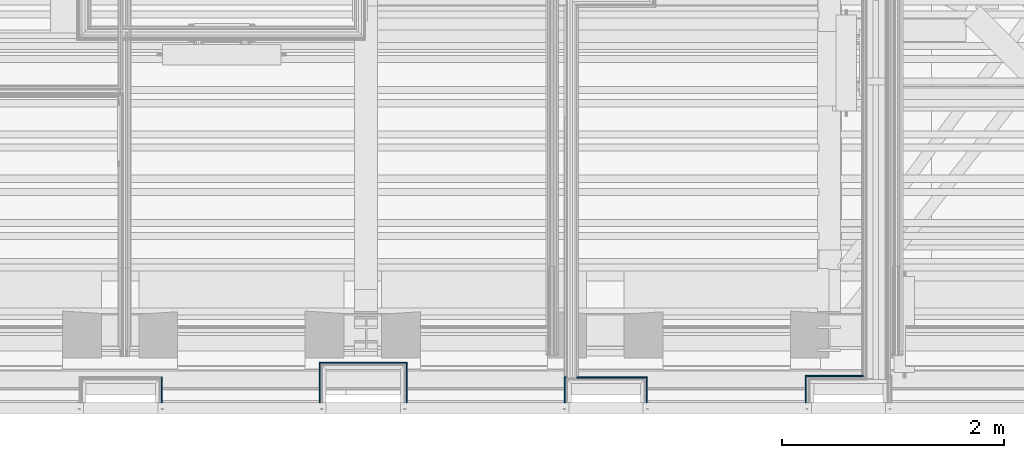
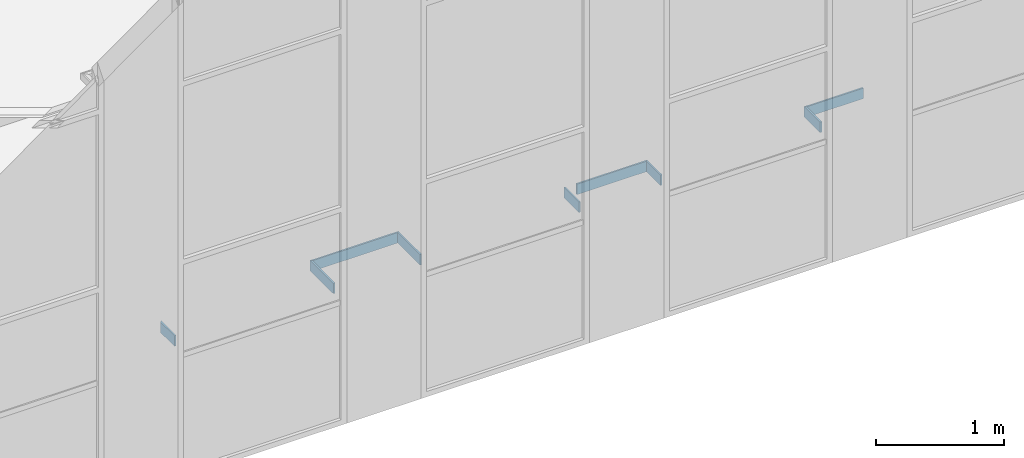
# One storey, part 75 of 183: 9 building element parts, 9 elements without a shape of their own.
"""IFC2X3 building model written with IfcOpenShell, lengths in metres."""

from ifc_helpers import new_model, entity, si_unit, converted_unit, derived_unit, money_unit, direction, frame, frame_2d, origin_with_axes, place, context, subcontext, project, spatial, polyline, rectangle, outline, extrude, material, type_object, element, aggregate, save


model = new_model("IFC2X3")

# Units and contexts
model_context = context("Model", 3, precision=1e-05, world=origin_with_axes(), true_north=direction((0.0, 1.0)))
body_context = subcontext(model_context, "Body", "Model", "MODEL_VIEW", scale=1.0)
ifc_project = project(units=[si_unit("LENGTHUNIT", "METRE"), si_unit("AREAUNIT", "SQUARE_METRE"), si_unit("VOLUMEUNIT", "CUBIC_METRE"), si_unit("ABSORBEDDOSEUNIT", "GRAY"), si_unit("AMOUNTOFSUBSTANCEUNIT", "MOLE"), si_unit("DOSEEQUIVALENTUNIT", "SIEVERT"), si_unit("ELECTRICCAPACITANCEUNIT", "FARAD"), si_unit("ELECTRICCHARGEUNIT", "COULOMB"), si_unit("ELECTRICCONDUCTANCEUNIT", "SIEMENS"), si_unit("ELECTRICCURRENTUNIT", "AMPERE"), si_unit("ELECTRICRESISTANCEUNIT", "OHM"), si_unit("ELECTRICVOLTAGEUNIT", "VOLT"), si_unit("ENERGYUNIT", "JOULE"), si_unit("FORCEUNIT", "NEWTON"), si_unit("FREQUENCYUNIT", "HERTZ"), si_unit("ILLUMINANCEUNIT", "LUX"), si_unit("INDUCTANCEUNIT", "HENRY"), si_unit("LUMINOUSFLUXUNIT", "LUMEN"), si_unit("LUMINOUSINTENSITYUNIT", "CANDELA"), si_unit("MAGNETICFLUXDENSITYUNIT", "TESLA"), si_unit("MAGNETICFLUXUNIT", "WEBER"), si_unit("MASSUNIT", "GRAM"), converted_unit("PLANEANGLEUNIT", "degree", entity("IfcReal", 0.0174532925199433), si_unit("PLANEANGLEUNIT", "RADIAN"), dimensions=[0, 0, 0, 0, 0, 0, 0]), si_unit("POWERUNIT", "WATT"), si_unit("PRESSUREUNIT", "PASCAL"), si_unit("RADIOACTIVITYUNIT", "BECQUEREL"), si_unit("SOLIDANGLEUNIT", "STERADIAN"), si_unit("THERMODYNAMICTEMPERATUREUNIT", "KELVIN"), si_unit("TIMEUNIT", "SECOND"), derived_unit("ACCELERATIONUNIT", [(si_unit("LENGTHUNIT", "METRE"), 1), (si_unit("TIMEUNIT", "SECOND"), -2)]), derived_unit("ANGULARVELOCITYUNIT", [(converted_unit("PLANEANGLEUNIT", "degree", entity("IfcReal", 0.0174532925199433), si_unit("PLANEANGLEUNIT", "RADIAN"), dimensions=[0, 0, 0, 0, 0, 0, 0]), 1), (si_unit("TIMEUNIT", "SECOND"), -1)]), derived_unit("CURVATUREUNIT", [(converted_unit("PLANEANGLEUNIT", "degree", entity("IfcReal", 0.0174532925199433), si_unit("PLANEANGLEUNIT", "RADIAN"), dimensions=[0, 0, 0, 0, 0, 0, 0]), 1), (si_unit("LENGTHUNIT", "METRE"), -1)]), derived_unit("DYNAMICVISCOSITYUNIT", [(si_unit("PRESSUREUNIT", "PASCAL"), 1), (si_unit("TIMEUNIT", "SECOND"), 1)]), derived_unit("HEATFLUXDENSITYUNIT", [(si_unit("POWERUNIT", "WATT"), 1), (si_unit("LENGTHUNIT", "METRE"), -2)]), derived_unit("HEATINGVALUEUNIT", [(si_unit("ENERGYUNIT", "JOULE"), 1), (si_unit("MASSUNIT", "GRAM"), -1)]), derived_unit("INTEGERCOUNTRATEUNIT", [(si_unit("TIMEUNIT", "SECOND"), -1)]), derived_unit("IONCONCENTRATIONUNIT", [(si_unit("MASSUNIT", "GRAM"), 1), (si_unit("VOLUMEUNIT", "CUBIC_METRE"), -1)]), derived_unit("ISOTHERMALMOISTURECAPACITYUNIT", [(si_unit("VOLUMEUNIT", "CUBIC_METRE"), 1), (si_unit("MASSUNIT", "GRAM"), -1)]), derived_unit("KINEMATICVISCOSITYUNIT", [(si_unit("AREAUNIT", "SQUARE_METRE"), 1), (si_unit("TIMEUNIT", "SECOND"), -1)]), derived_unit("LINEARFORCEUNIT", [(si_unit("FORCEUNIT", "NEWTON"), 1), (si_unit("LENGTHUNIT", "METRE"), -1)]), derived_unit("LINEARMOMENTUNIT", [(si_unit("FORCEUNIT", "NEWTON"), 1), (si_unit("LENGTHUNIT", "METRE"), -1)]), derived_unit("LINEARSTIFFNESSUNIT", [(si_unit("FORCEUNIT", "NEWTON"), 1), (si_unit("LENGTHUNIT", "METRE"), -1)]), derived_unit("LINEARVELOCITYUNIT", [(si_unit("LENGTHUNIT", "METRE"), 1), (si_unit("TIMEUNIT", "SECOND"), -1)]), derived_unit("LUMINOUSINTENSITYDISTRIBUTIONUNIT", [(si_unit("LUMINOUSINTENSITYUNIT", "CANDELA"), 1), (si_unit("LUMINOUSFLUXUNIT", "LUMEN"), -1)]), derived_unit("MASSDENSITYUNIT", [(si_unit("MASSUNIT", "GRAM"), 1), (si_unit("VOLUMEUNIT", "CUBIC_METRE"), -1)]), derived_unit("MASSFLOWRATEUNIT", [(si_unit("MASSUNIT", "GRAM"), 1), (si_unit("TIMEUNIT", "SECOND"), -1)]), derived_unit("MASSPERLENGTHUNIT", [(si_unit("MASSUNIT", "GRAM"), 1), (si_unit("LENGTHUNIT", "METRE"), -1)]), derived_unit("MODULUSOFELASTICITYUNIT", [(si_unit("FORCEUNIT", "NEWTON"), 1), (si_unit("AREAUNIT", "SQUARE_METRE"), -1)]), derived_unit("MODULUSOFLINEARSUBGRADEREACTIONUNIT", [(si_unit("FORCEUNIT", "NEWTON"), 1), (si_unit("LENGTHUNIT", "METRE"), -2)]), derived_unit("MODULUSOFROTATIONALSUBGRADEREACTIONUNIT", [(si_unit("FORCEUNIT", "NEWTON"), 1), (si_unit("LENGTHUNIT", "METRE"), 1)]), derived_unit("MODULUSOFSUBGRADEREACTIONUNIT", [(si_unit("FORCEUNIT", "NEWTON"), 1), (si_unit("VOLUMEUNIT", "CUBIC_METRE"), -1)]), derived_unit("MOISTUREDIFFUSIVITYUNIT", [(si_unit("VOLUMEUNIT", "CUBIC_METRE"), 1), (si_unit("TIMEUNIT", "SECOND"), -1)]), derived_unit("MOLECULARWEIGHTUNIT", [(si_unit("MASSUNIT", "GRAM"), 1), (si_unit("AMOUNTOFSUBSTANCEUNIT", "MOLE"), -1)]), derived_unit("PLANARFORCEUNIT", [(si_unit("FORCEUNIT", "NEWTON"), 1), (si_unit("LENGTHUNIT", "METRE"), -2)]), derived_unit("ROTATIONALFREQUENCYUNIT", [(si_unit("TIMEUNIT", "SECOND"), -1)]), derived_unit("ROTATIONALMASSUNIT", [(si_unit("MASSUNIT", "GRAM"), 1), (si_unit("LENGTHUNIT", "METRE"), 2)]), derived_unit("ROTATIONALSTIFFNESSUNIT", [(si_unit("FORCEUNIT", "NEWTON"), 1), (si_unit("LENGTHUNIT", "METRE"), 1), (converted_unit("PLANEANGLEUNIT", "degree", entity("IfcReal", 0.0174532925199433), si_unit("PLANEANGLEUNIT", "RADIAN"), dimensions=[0, 0, 0, 0, 0, 0, 0]), -1)]), derived_unit("SECTIONAREAINTEGRALUNIT", [(si_unit("LENGTHUNIT", "METRE"), 5)]), derived_unit("SECTIONMODULUSUNIT", [(si_unit("LENGTHUNIT", "METRE"), 3)]), derived_unit("SHEARMODULUSUNIT", [(si_unit("FORCEUNIT", "NEWTON"), 1), (si_unit("AREAUNIT", "SQUARE_METRE"), -1)]), derived_unit("SOUNDPOWERUNIT", [(si_unit("ENERGYUNIT", "JOULE"), 1), (si_unit("TIMEUNIT", "SECOND"), -1)]), derived_unit("SPECIFICHEATCAPACITYUNIT", [(si_unit("FORCEUNIT", "NEWTON"), 1), (si_unit("MASSUNIT", "GRAM"), -1), (si_unit("THERMODYNAMICTEMPERATUREUNIT", "KELVIN"), -1)]), derived_unit("TEMPERATUREGRADIENTUNIT", [(si_unit("THERMODYNAMICTEMPERATUREUNIT", "KELVIN"), 1), (si_unit("LENGTHUNIT", "METRE"), -1)]), derived_unit("THERMALADMITTANCEUNIT", [(si_unit("POWERUNIT", "WATT"), 1), (si_unit("AREAUNIT", "SQUARE_METRE"), -1), (si_unit("THERMODYNAMICTEMPERATUREUNIT", "KELVIN"), -1)]), derived_unit("THERMALCONDUCTANCEUNIT", [(si_unit("POWERUNIT", "WATT"), 1), (si_unit("LENGTHUNIT", "METRE"), -1), (si_unit("THERMODYNAMICTEMPERATUREUNIT", "KELVIN"), -1)]), derived_unit("THERMALEXPANSIONCOEFFICIENTUNIT", [(si_unit("THERMODYNAMICTEMPERATUREUNIT", "KELVIN"), -1)]), derived_unit("THERMALRESISTANCEUNIT", [(si_unit("AREAUNIT", "SQUARE_METRE"), 1), (si_unit("POWERUNIT", "WATT"), -1)]), derived_unit("THERMALTRANSMITTANCEUNIT", [(si_unit("POWERUNIT", "WATT"), 1), (si_unit("AREAUNIT", "SQUARE_METRE"), -1), (si_unit("THERMODYNAMICTEMPERATUREUNIT", "KELVIN"), -1)]), derived_unit("TORQUEUNIT", [(si_unit("FORCEUNIT", "NEWTON"), 1), (si_unit("LENGTHUNIT", "METRE"), 1)]), derived_unit("VAPORPERMEABILITYUNIT", [(si_unit("MASSUNIT", "GRAM"), 1), (si_unit("TIMEUNIT", "SECOND"), -1)]), derived_unit("VOLUMETRICFLOWRATEUNIT", [(si_unit("VOLUMEUNIT", "CUBIC_METRE"), 1), (si_unit("TIMEUNIT", "SECOND"), -1)]), derived_unit("WARPINGCONSTANTUNIT", [(si_unit("LENGTHUNIT", "METRE"), 6)]), derived_unit("WARPINGMOMENTUNIT", [(si_unit("FORCEUNIT", "NEWTON"), 1), (si_unit("LENGTHUNIT", "METRE"), 2)]), money_unit("GBP")], contexts=[model_context])

# Site, building, storey
site_placement = place(None, origin_with_axes())
site = spatial("IfcSite", under=ifc_project, at=site_placement, Name="Site", CompositionType="ELEMENT")
building_placement = place(site_placement, origin_with_axes())
building = spatial("IfcBuilding", under=site, at=building_placement, Name="Building01", CompositionType="ELEMENT")
storey_placement = place(building_placement, frame((0.0, 0.0, 5.15), z_axis=(0.0, 0.0, 1.0), x_axis=(1.0, 0.0, 0.0)))
storey = spatial("IfcBuildingStorey", under=building, at=storey_placement, Name="1F", CompositionType="ELEMENT", Elevation=5.15)

# Wall, building element part
wall_type_1 = type_object("IfcWallType", Name="SHE_A-Walls_Type06d_ExternalWallInsulation_48mm", PredefinedType="NOTDEFINED")
wall_1_placement = place(storey_placement, frame((16.007, 0.27, 0.0), z_axis=(0.0, 0.0, 1.0), x_axis=(0.0, -1.0, 0.0)))
wall_1 = element("IfcWall", 1, at=wall_1_placement, inside=storey, type_object=wall_type_1, Name="6D", ObjectType="SHE_A-Walls_Type06d_ExternalWallInsulation_48mm")
ifc_material = material(Name="A_BSUK_Walls_Timber")
building_element_part_1_placement = place(wall_1_placement, origin_with_axes())
building_element_part_1 = element("IfcBuildingElementPart", 2, at=building_element_part_1_placement, material=ifc_material, Name="3", context=body_context, shape_type="SweptSolid", body=[
    extrude(outline(polyline([(-0.063, 0.063), (-0.048, 0.048), (0.17, 0.048), (0.17, 0.063), (-0.063, 0.063)])), frame((0.0, 0.0, 0.015), z_axis=(0.0, 0.0, 1.0), x_axis=(1.0, 0.0, 0.0)), (0.0, 0.0, 1.0), 0.1),
])
aggregate(wall_1, [building_element_part_1])

wall_2_placement = place(storey_placement, frame((17.55, 0.1, 0.0), z_axis=(0.0, 0.0, 1.0), x_axis=(0.0, 1.0, 0.0)))
wall_2 = element("IfcWall", 3, at=wall_2_placement, inside=storey, type_object=wall_type_1, Name="6D", ObjectType="SHE_A-Walls_Type06d_ExternalWallInsulation_48mm")
building_element_part_2_placement = place(wall_2_placement, origin_with_axes())
building_element_part_2 = element("IfcBuildingElementPart", 4, at=building_element_part_2_placement, material=ifc_material, Name="3", context=body_context, shape_type="SweptSolid", body=[
    extrude(outline(polyline([(0.363, 0.063), (0.0, 0.063), (0.0, 0.048), (0.348, 0.048), (0.363, 0.063)])), frame((0.0, 0.0, 0.015), z_axis=(0.0, 0.0, 1.0), x_axis=(1.0, 0.0, 0.0)), (0.0, 0.0, 1.0), 0.1),
])
aggregate(wall_2, [building_element_part_2])

wall_3_placement = place(storey_placement, frame((17.55, 0.4, 0.0), z_axis=(0.0, 0.0, 1.0), x_axis=(1.0, 0.0, 0.0)))
wall_3 = element("IfcWall", 5, at=wall_3_placement, inside=storey, type_object=wall_type_1, Name="6D", ObjectType="SHE_A-Walls_Type06d_ExternalWallInsulation_48mm")
building_element_part_3_placement = place(wall_3_placement, origin_with_axes())
building_element_part_3 = element("IfcBuildingElementPart", 6, at=building_element_part_3_placement, material=ifc_material, Name="3", context=body_context, shape_type="SweptSolid", body=[
    extrude(outline(polyline([(0.733, 0.063), (-0.063, 0.063), (-0.048, 0.048), (0.718, 0.048), (0.733, 0.063)])), frame((0.0, 0.0, 0.015), z_axis=(0.0, 0.0, 1.0), x_axis=(1.0, 0.0, 0.0)), (0.0, 0.0, 1.0), 0.1),
])
aggregate(wall_3, [building_element_part_3])

wall_4_placement = place(storey_placement, frame((18.22, 0.4, 0.0), z_axis=(0.0, 0.0, 1.0), x_axis=(0.0, -1.0, 0.0)))
wall_4 = element("IfcWall", 7, at=wall_4_placement, inside=storey, type_object=wall_type_1, Name="6D", ObjectType="SHE_A-Walls_Type06d_ExternalWallInsulation_48mm")
building_element_part_4_placement = place(wall_4_placement, origin_with_axes())
building_element_part_4 = element("IfcBuildingElementPart", 8, at=building_element_part_4_placement, material=ifc_material, Name="3", context=body_context, shape_type="SweptSolid", body=[
    extrude(outline(polyline([(-0.063, 0.063), (-0.048, 0.048), (0.3, 0.048), (0.3, 0.063), (-0.063, 0.063)])), frame((0.0, 0.0, 0.015), z_axis=(0.0, 0.0, 1.0), x_axis=(1.0, 0.0, 0.0)), (0.0, 0.0, 1.0), 0.1),
])
aggregate(wall_4, [building_element_part_4])

wall_type_2 = type_object("IfcWallType", Name="SHE_A-Walls_Type06f_ExternalWallInsulation_48+15mm", PredefinedType="NOTDEFINED")
wall_5_placement = place(storey_placement, frame((21.953, 0.1, 0.0), z_axis=(0.0, 0.0, 1.0), x_axis=(0.0, 1.0, 0.0)))
wall_5 = element("IfcWall", 9, at=wall_5_placement, inside=storey, type_object=wall_type_2, Name="6F", ObjectType="SHE_A-Walls_Type06f_ExternalWallInsulation_48+15mm")
building_element_part_5_placement = place(wall_5_placement, origin_with_axes())
building_element_part_5 = element("IfcBuildingElementPart", 10, at=building_element_part_5_placement, material=ifc_material, Name="4", context=body_context, shape_type="SweptSolid", body=[
    extrude(outline(polyline([(0.248, 0.078), (0.0, 0.078), (0.0, 0.063), (0.233, 0.063), (0.248, 0.078)])), frame((0.0, 0.0, 0.015), z_axis=(0.0, 0.0, 1.0), x_axis=(1.0, 0.0, 0.0)), (0.0, 0.0, 1.0), 0.1),
])
aggregate(wall_5, [building_element_part_5])

wall_6_placement = place(storey_placement, frame((21.917, 0.27, 0.0), z_axis=(0.0, 0.0, 1.0), x_axis=(1.0, 0.0, 0.0)))
wall_6 = element("IfcWall", 11, at=wall_6_placement, inside=storey, type_object=wall_type_2, Name="6F", ObjectType="SHE_A-Walls_Type06f_ExternalWallInsulation_48+15mm")
building_element_part_6_placement = place(wall_6_placement, origin_with_axes())
building_element_part_6 = element("IfcBuildingElementPart", 12, at=building_element_part_6_placement, material=ifc_material, Name="6", context=body_context, shape_type="SweptSolid", body=[
    extrude(outline(polyline([(0.483, 0.078), (-0.042, 0.078), (-0.027, 0.063), (0.483, 0.063), (0.483, 0.078)])), frame((0.0, 0.0, 0.015), z_axis=(0.0, 0.0, 1.0), x_axis=(1.0, 0.0, 0.0)), (0.0, 0.0, 1.0), 0.1),
])
aggregate(wall_6, [building_element_part_6])

wall_7_placement = place(storey_placement, frame((19.763, 0.1, 0.0), z_axis=(0.0, 0.0, 1.0), x_axis=(0.0, 1.0, 0.0)))
wall_7 = element("IfcWall", 13, at=wall_7_placement, inside=storey, type_object=wall_type_1, Name="6D", ObjectType="SHE_A-Walls_Type06d_ExternalWallInsulation_48mm")
building_element_part_7_placement = place(wall_7_placement, origin_with_axes())
building_element_part_7 = element("IfcBuildingElementPart", 14, at=building_element_part_7_placement, material=ifc_material, Name="3", context=body_context, shape_type="SweptSolid", body=[
    extrude(rectangle(XDim=0.233, YDim=0.015, at=frame_2d((0.1165, 0.0555), x_axis=(-1.0, 0.0))), frame((0.0, 0.0, 0.015), z_axis=(0.0, 0.0, 1.0), x_axis=(1.0, 0.0, 0.0)), (0.0, 0.0, 1.0), 0.1),
])
aggregate(wall_7, [building_element_part_7])

wall_8_placement = place(storey_placement, frame((19.763, 0.27, 0.0), z_axis=(0.0, 0.0, 1.0), x_axis=(1.0, 0.0, 0.0)))
wall_8 = element("IfcWall", 15, at=wall_8_placement, inside=storey, type_object=wall_type_1, Name="6D", ObjectType="SHE_A-Walls_Type06d_ExternalWallInsulation_48mm")
building_element_part_8_placement = place(wall_8_placement, origin_with_axes())
building_element_part_8 = element("IfcBuildingElementPart", 16, at=building_element_part_8_placement, material=ifc_material, Name="3", context=body_context, shape_type="SweptSolid", body=[
    extrude(outline(polyline([(0.687, 0.063), (0.047, 0.063), (0.047, 0.048), (0.672, 0.048), (0.687, 0.063)])), frame((0.0, 0.0, 0.015), z_axis=(0.0, 0.0, 1.0), x_axis=(1.0, 0.0, 0.0)), (0.0, 0.0, 1.0), 0.1),
])
aggregate(wall_8, [building_element_part_8])

wall_9_placement = place(storey_placement, frame((20.387, 0.27, 0.0), z_axis=(0.0, 0.0, 1.0), x_axis=(0.0, -1.0, 0.0)))
wall_9 = element("IfcWall", 17, at=wall_9_placement, inside=storey, type_object=wall_type_1, Name="6D", ObjectType="SHE_A-Walls_Type06d_ExternalWallInsulation_48mm")
building_element_part_9_placement = place(wall_9_placement, origin_with_axes())
building_element_part_9 = element("IfcBuildingElementPart", 18, at=building_element_part_9_placement, material=ifc_material, Name="3", context=body_context, shape_type="SweptSolid", body=[
    extrude(outline(polyline([(-0.063, 0.063), (-0.048, 0.048), (0.17, 0.048), (0.17, 0.063), (-0.063, 0.063)])), frame((0.0, 0.0, 0.015), z_axis=(0.0, 0.0, 1.0), x_axis=(1.0, 0.0, 0.0)), (0.0, 0.0, 1.0), 0.1),
])
aggregate(wall_9, [building_element_part_9])

save(model, "model.ifc")
